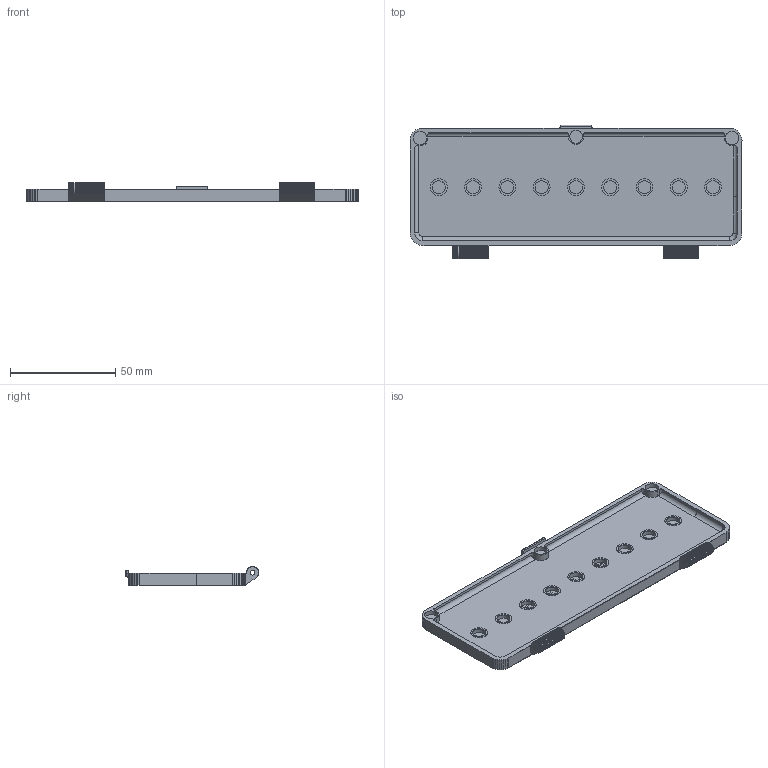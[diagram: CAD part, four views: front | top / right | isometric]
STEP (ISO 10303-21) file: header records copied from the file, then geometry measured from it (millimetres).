
FILE_DESCRIPTION(/* description */ (''),/* implementation_level */ '2;1');
FILE_NAME(/* name */ 'Deckel.step',/* time_stamp */ '2025-11-07T14:06:42+01:00',/* author */ (''),/* organization */ (''),/* preprocessor_version */ 'ST-DEVELOPER v20.1',/* originating_system */ 'Autodesk Translation Framework v14.21.0.0',/* authorisation */ '');
FILE_SCHEMA (('AUTOMOTIVE_DESIGN { 1 0 10303 214 3 1 1 }'));
Length unit declared in the file: millimetre
Products named in the file (1): 2025-11-07-14-06-41-567
Bounding box: 158 x 63.51 x 8.9 mm (x, y, z)
Volume: 26055.6 mm3; surface area: 22867.7 mm2
Topology: 15 solids, 15 shells, 779 faces, 2150 edges, 1423 vertices
Faces by surface type: plane 525, bspline 201, cylinder 53
Full cylindrical faces by diameter (mm): 6.1 x1, 6.2 x17, 6.3 x2, 8 x9
Entity records: 26481 total; most frequent: CARTESIAN_POINT 7860, ORIENTED_EDGE 4300, DIRECTION 3017, EDGE_CURVE 2150, LINE 1625, VECTOR 1625, VERTEX_POINT 1423, EDGE_LOOP 809
